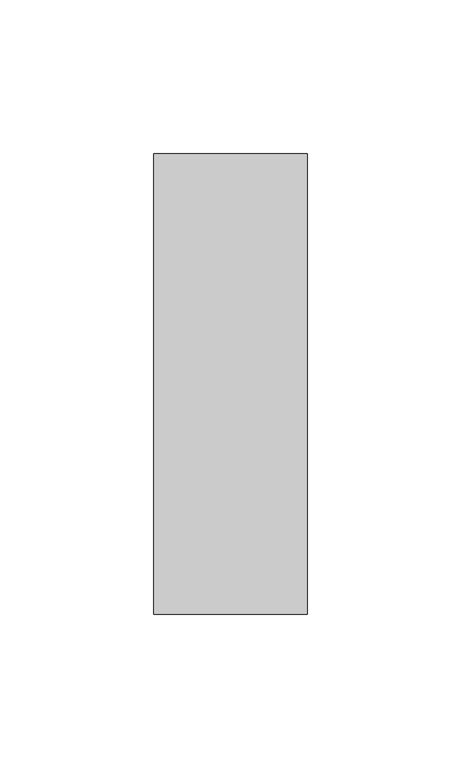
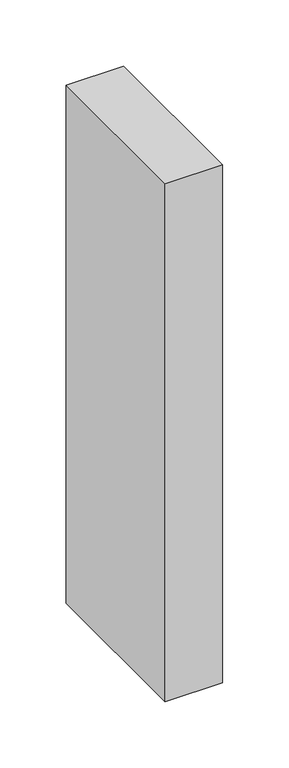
"""IFC4 building model written with IfcOpenShell, lengths in millimetres: member geometry, Прямоугольный импост : 50 x 150 мм."""

from ifc_helpers import new_model, si_unit, frame, origin, place, context, project, spatial, polyline, outline, extrude, source, transform, mapped, element, save


def member_69c73a02(model_context):
    return source(origin(), model_context, "Body", "SweptSolid", [
        extrude(outline(polyline([(25.0, 75.0), (25.0, -75.0), (-25.0, -75.0), (-25.0, 75.0), (25.0, 75.0)])), frame((0.0, 0.0, -477.6304257), z_axis=(0.0, 0.0, 1.0), x_axis=(1.0, 0.0, 0.0)), (0.0, 0.0, 1.0), 477.6304257),
    ])


if __name__ == "__main__":
    model = new_model("IFC4")
    model_context = context("Model", 3, world=origin())
    ifc_project = project(units=[si_unit("LENGTHUNIT", "METRE", prefix="MILLI")], contexts=[model_context])
    site = spatial("IfcSite", under=ifc_project)
    building = spatial("IfcBuilding", under=site)
    placement = place(None, origin())
    member_shape = member_69c73a02(model_context)
    element("IfcMember", 1, ObjectType="Прямоугольный импост : 50 x 150 мм", at=placement, inside=building, context=model_context, shape_type="MappedRepresentation", body=[
        mapped(member_shape, transform((0.0, 0.0, 0.0), x_axis=(1.0, 0.0, 0.0), y_axis=(0.0, 1.0, 0.0), z_axis=(0.0, 0.0, 1.0))),
    ])
    save(model, "model.ifc")
